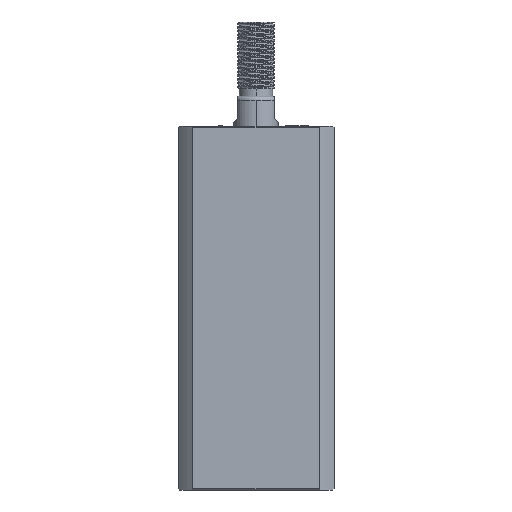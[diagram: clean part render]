
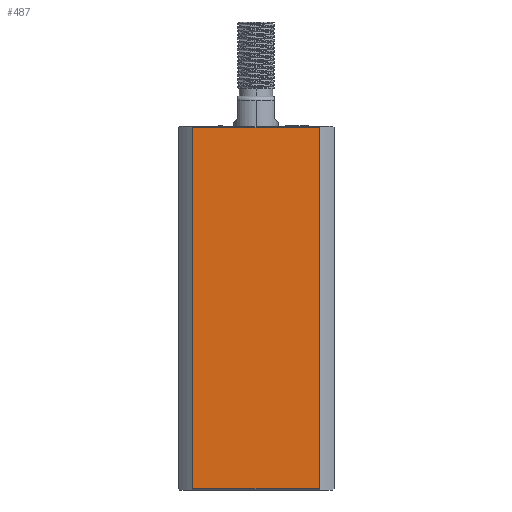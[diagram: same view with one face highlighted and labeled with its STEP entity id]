
A CAD part, left-side view. The second image highlights one B-rep face of the part: STEP entity #487.
In plain terms, the highlighted planar face has unit normal (-1, 0, 0).
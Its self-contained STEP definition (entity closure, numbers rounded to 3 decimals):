
#85 = VERTEX_POINT ( 'NONE', #12219 ) ;
#380 = VECTOR ( 'NONE', #2334, 1000. ) ;
#487 = ADVANCED_FACE ( 'NONE', ( #13053 ), #11073, .F. ) ;
#781 = VECTOR ( 'NONE', #5870, 1000. ) ;
#1499 = LINE ( 'NONE', #2379, #781 ) ;
#2334 = DIRECTION ( 'NONE',  ( 0., 0., 1. ) ) ;
#2379 = CARTESIAN_POINT ( 'NONE',  ( -21., -16.971, -2902. ) ) ;
#2523 = DIRECTION ( 'NONE',  ( 0., 1., 0. ) ) ;
#2762 = CARTESIAN_POINT ( 'NONE',  ( -21., 16.971, 97.7 ) ) ;
#2819 = VECTOR ( 'NONE', #2523, 1000. ) ;
#3503 = DIRECTION ( 'NONE',  ( 0., -1., 0. ) ) ;
#4296 = VECTOR ( 'NONE', #3503, 1000. ) ;
#5153 = CARTESIAN_POINT ( 'NONE',  ( -21., 21., 98. ) ) ;
#5227 = ORIENTED_EDGE ( 'NONE', *, *, #6946, .F. ) ;
#5866 = CARTESIAN_POINT ( 'NONE',  ( -21., -16.971, 97.7 ) ) ;
#5870 = DIRECTION ( 'NONE',  ( 0., 0., -1. ) ) ;
#6302 = ORIENTED_EDGE ( 'NONE', *, *, #14384, .T. ) ;
#6946 = EDGE_CURVE ( 'NONE', #9736, #85, #1499, .T. ) ;
#6987 = CARTESIAN_POINT ( 'NONE',  ( -21., 16.971, -2902. ) ) ;
#6989 = LINE ( 'NONE', #6987, #380 ) ;
#7976 = DIRECTION ( 'NONE',  ( 0., 1., 0. ) ) ;
#8597 = LINE ( 'NONE', #10596, #2819 ) ;
#9736 = VERTEX_POINT ( 'NONE', #5866 ) ;
#9864 = ORIENTED_EDGE ( 'NONE', *, *, #13704, .T. ) ;
#10019 = LINE ( 'NONE', #11539, #4296 ) ;
#10596 = CARTESIAN_POINT ( 'NONE',  ( -21., 21., 97.7 ) ) ;
#11073 = PLANE ( 'NONE',  #12507 ) ;
#11111 = CARTESIAN_POINT ( 'NONE',  ( -21., 16.971, 0.3 ) ) ;
#11390 = DIRECTION ( 'NONE',  ( 1., 0., 0. ) ) ;
#11539 = CARTESIAN_POINT ( 'NONE',  ( -21., 21., 0.3 ) ) ;
#11610 = VERTEX_POINT ( 'NONE', #11111 ) ;
#12219 = CARTESIAN_POINT ( 'NONE',  ( -21., -16.971, 0.3 ) ) ;
#12507 = AXIS2_PLACEMENT_3D ( 'NONE', #5153, #11390, #7976 ) ;
#12577 = VERTEX_POINT ( 'NONE', #2762 ) ;
#13053 = FACE_OUTER_BOUND ( 'NONE', #14203, .T. ) ;
#13704 = EDGE_CURVE ( 'NONE', #11610, #85, #10019, .T. ) ;
#13731 = EDGE_CURVE ( 'NONE', #11610, #12577, #6989, .T. ) ;
#14203 = EDGE_LOOP ( 'NONE', ( #14951, #9864, #5227, #6302 ) ) ;
#14384 = EDGE_CURVE ( 'NONE', #9736, #12577, #8597, .T. ) ;
#14951 = ORIENTED_EDGE ( 'NONE', *, *, #13731, .F. ) ;
